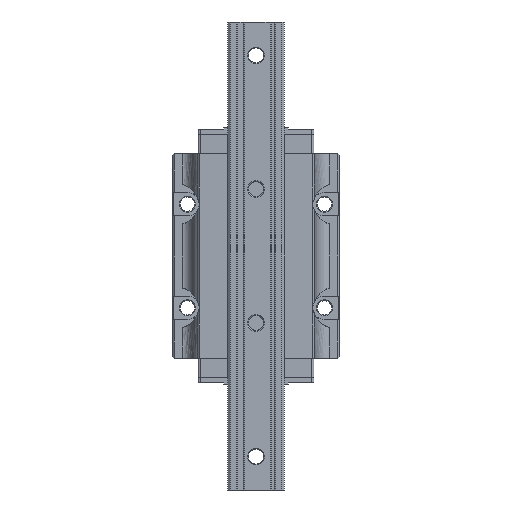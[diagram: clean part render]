
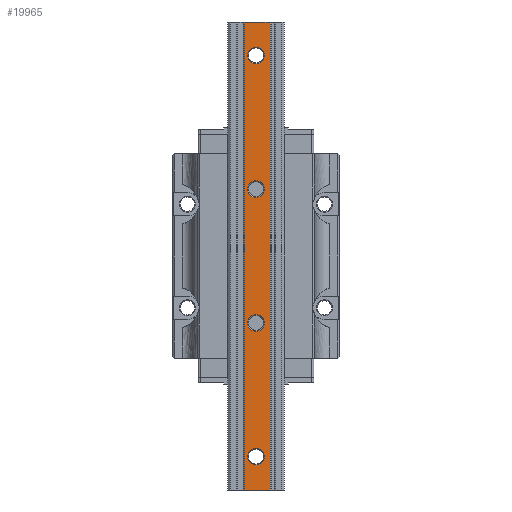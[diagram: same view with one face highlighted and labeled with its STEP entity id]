
A CAD part, front view. The second image highlights one B-rep face of the part: STEP entity #19965.
In plain terms, the highlighted planar face has unit normal (0, -1, 0).
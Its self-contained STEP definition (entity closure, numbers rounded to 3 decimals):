
#373 = VERTEX_POINT ( 'NONE', #3924 ) ;
#1099 = CARTESIAN_POINT ( 'NONE',  ( 0., -26., 40. ) ) ;
#1130 = VERTEX_POINT ( 'NONE', #17689 ) ;
#1188 = CARTESIAN_POINT ( 'NONE',  ( 0., -26., -125. ) ) ;
#1472 = AXIS2_PLACEMENT_3D ( 'NONE', #7399, #14158, #12283 ) ;
#1619 = VERTEX_POINT ( 'NONE', #12989 ) ;
#1746 = ORIENTED_EDGE ( 'NONE', *, *, #17996, .T. ) ;
#2078 = EDGE_CURVE ( 'NONE', #13143, #18710, #11164, .T. ) ;
#2308 = DIRECTION ( 'NONE',  ( 0., 0., 1. ) ) ;
#2327 = EDGE_CURVE ( 'NONE', #373, #5859, #5360, .T. ) ;
#2399 = CARTESIAN_POINT ( 'NONE',  ( 0., -26., 35. ) ) ;
#2979 = VECTOR ( 'NONE', #7361, 1000. ) ;
#3109 = DIRECTION ( 'NONE',  ( 0., 0., 1. ) ) ;
#3287 = DIRECTION ( 'NONE',  ( 0., 1., 0. ) ) ;
#3648 = CIRCLE ( 'NONE', #6819, 5. ) ;
#3858 = EDGE_LOOP ( 'NONE', ( #1746, #11451, #14576, #13323 ) ) ;
#3924 = CARTESIAN_POINT ( 'NONE',  ( 0., -26., -35. ) ) ;
#4320 = ORIENTED_EDGE ( 'NONE', *, *, #15008, .T. ) ;
#4444 = AXIS2_PLACEMENT_3D ( 'NONE', #4749, #18282, #3109 ) ;
#4567 = CARTESIAN_POINT ( 'NONE',  ( -7., -26., 140. ) ) ;
#4749 = CARTESIAN_POINT ( 'NONE',  ( 0., -26., 40. ) ) ;
#4849 = EDGE_CURVE ( 'NONE', #12384, #21370, #7249, .T. ) ;
#4966 = DIRECTION ( 'NONE',  ( 0., 1., 0. ) ) ;
#5360 = CIRCLE ( 'NONE', #1472, 5. ) ;
#5689 = LINE ( 'NONE', #12776, #18446 ) ;
#5744 = DIRECTION ( 'NONE',  ( 0., 0., 1. ) ) ;
#5859 = VERTEX_POINT ( 'NONE', #12724 ) ;
#5875 = AXIS2_PLACEMENT_3D ( 'NONE', #13253, #3287, #16592 ) ;
#5957 = EDGE_LOOP ( 'NONE', ( #8949, #13778 ) ) ;
#6482 = DIRECTION ( 'NONE',  ( 0., 1., 0. ) ) ;
#6639 = CARTESIAN_POINT ( 'NONE',  ( 0., -26., 120. ) ) ;
#6641 = DIRECTION ( 'NONE',  ( 0., 1., 0. ) ) ;
#6735 = EDGE_CURVE ( 'NONE', #12638, #1130, #13324, .T. ) ;
#6786 = CIRCLE ( 'NONE', #11385, 5. ) ;
#6818 = FACE_BOUND ( 'NONE', #5957, .T. ) ;
#6819 = AXIS2_PLACEMENT_3D ( 'NONE', #19147, #14261, #2308 ) ;
#7249 = CIRCLE ( 'NONE', #12196, 5. ) ;
#7361 = DIRECTION ( 'NONE',  ( 1., 0., 0. ) ) ;
#7399 = CARTESIAN_POINT ( 'NONE',  ( 0., -26., -40. ) ) ;
#7518 = DIRECTION ( 'NONE',  ( 0., 1., 0. ) ) ;
#8063 = ORIENTED_EDGE ( 'NONE', *, *, #9699, .T. ) ;
#8715 = EDGE_CURVE ( 'NONE', #20958, #12638, #5689, .T. ) ;
#8860 = EDGE_LOOP ( 'NONE', ( #4320, #17798 ) ) ;
#8949 = ORIENTED_EDGE ( 'NONE', *, *, #14803, .T. ) ;
#9391 = ORIENTED_EDGE ( 'NONE', *, *, #2327, .T. ) ;
#9426 = CARTESIAN_POINT ( 'NONE',  ( -7., -26., 140. ) ) ;
#9699 = EDGE_CURVE ( 'NONE', #21370, #12384, #19083, .T. ) ;
#9932 = FACE_BOUND ( 'NONE', #17157, .T. ) ;
#9985 = DIRECTION ( 'NONE',  ( 0., 0., -1. ) ) ;
#10405 = CARTESIAN_POINT ( 'NONE',  ( 0., -26., -120. ) ) ;
#11053 = VERTEX_POINT ( 'NONE', #1188 ) ;
#11108 = DIRECTION ( 'NONE',  ( 1., 0., 0. ) ) ;
#11164 = CIRCLE ( 'NONE', #4444, 5. ) ;
#11324 = DIRECTION ( 'NONE',  ( 0., 0., -1. ) ) ;
#11385 = AXIS2_PLACEMENT_3D ( 'NONE', #10405, #12071, #18509 ) ;
#11451 = ORIENTED_EDGE ( 'NONE', *, *, #6735, .F. ) ;
#11479 = FACE_OUTER_BOUND ( 'NONE', #3858, .T. ) ;
#12071 = DIRECTION ( 'NONE',  ( 0., 1., 0. ) ) ;
#12124 = LINE ( 'NONE', #15462, #2979 ) ;
#12182 = VECTOR ( 'NONE', #11324, 1000. ) ;
#12196 = AXIS2_PLACEMENT_3D ( 'NONE', #13696, #6482, #20457 ) ;
#12283 = DIRECTION ( 'NONE',  ( 0., 0., 1. ) ) ;
#12320 = ORIENTED_EDGE ( 'NONE', *, *, #12507, .T. ) ;
#12335 = EDGE_CURVE ( 'NONE', #1619, #11053, #6786, .T. ) ;
#12384 = VERTEX_POINT ( 'NONE', #12506 ) ;
#12506 = CARTESIAN_POINT ( 'NONE',  ( 0., -26., 115. ) ) ;
#12507 = EDGE_CURVE ( 'NONE', #5859, #373, #16715, .T. ) ;
#12585 = VECTOR ( 'NONE', #9985, 1000. ) ;
#12638 = VERTEX_POINT ( 'NONE', #16608 ) ;
#12724 = CARTESIAN_POINT ( 'NONE',  ( 0., -26., -45. ) ) ;
#12776 = CARTESIAN_POINT ( 'NONE',  ( -7., -26., 140. ) ) ;
#12989 = CARTESIAN_POINT ( 'NONE',  ( 0., -26., -115. ) ) ;
#13143 = VERTEX_POINT ( 'NONE', #20766 ) ;
#13253 = CARTESIAN_POINT ( 'NONE',  ( -7., -26., 140. ) ) ;
#13323 = ORIENTED_EDGE ( 'NONE', *, *, #16432, .T. ) ;
#13324 = LINE ( 'NONE', #18518, #12585 ) ;
#13368 = FACE_BOUND ( 'NONE', #17371, .T. ) ;
#13696 = CARTESIAN_POINT ( 'NONE',  ( 0., -26., 120. ) ) ;
#13764 = AXIS2_PLACEMENT_3D ( 'NONE', #6639, #4966, #14947 ) ;
#13778 = ORIENTED_EDGE ( 'NONE', *, *, #2078, .T. ) ;
#13790 = CARTESIAN_POINT ( 'NONE',  ( -7., -26., -140. ) ) ;
#13959 = CARTESIAN_POINT ( 'NONE',  ( 0., -26., -40. ) ) ;
#14158 = DIRECTION ( 'NONE',  ( 0., 1., 0. ) ) ;
#14261 = DIRECTION ( 'NONE',  ( 0., 1., 0. ) ) ;
#14576 = ORIENTED_EDGE ( 'NONE', *, *, #8715, .F. ) ;
#14803 = EDGE_CURVE ( 'NONE', #18710, #13143, #19563, .T. ) ;
#14947 = DIRECTION ( 'NONE',  ( 0., 0., 1. ) ) ;
#15008 = EDGE_CURVE ( 'NONE', #11053, #1619, #3648, .T. ) ;
#15462 = CARTESIAN_POINT ( 'NONE',  ( -7., -26., -140. ) ) ;
#16432 = EDGE_CURVE ( 'NONE', #20958, #17927, #18083, .T. ) ;
#16592 = DIRECTION ( 'NONE',  ( 0., 0., 1. ) ) ;
#16608 = CARTESIAN_POINT ( 'NONE',  ( 8.5, -26., 140. ) ) ;
#16715 = CIRCLE ( 'NONE', #20257, 5. ) ;
#17157 = EDGE_LOOP ( 'NONE', ( #19269, #8063 ) ) ;
#17371 = EDGE_LOOP ( 'NONE', ( #12320, #9391 ) ) ;
#17689 = CARTESIAN_POINT ( 'NONE',  ( 8.5, -26., -140. ) ) ;
#17798 = ORIENTED_EDGE ( 'NONE', *, *, #12335, .T. ) ;
#17927 = VERTEX_POINT ( 'NONE', #13790 ) ;
#17996 = EDGE_CURVE ( 'NONE', #17927, #1130, #12124, .T. ) ;
#18048 = DIRECTION ( 'NONE',  ( 0., 0., 1. ) ) ;
#18083 = LINE ( 'NONE', #4567, #12182 ) ;
#18141 = AXIS2_PLACEMENT_3D ( 'NONE', #1099, #6641, #18048 ) ;
#18282 = DIRECTION ( 'NONE',  ( 0., 1., 0. ) ) ;
#18446 = VECTOR ( 'NONE', #11108, 1000. ) ;
#18509 = DIRECTION ( 'NONE',  ( 0., 0., 1. ) ) ;
#18518 = CARTESIAN_POINT ( 'NONE',  ( 8.5, -26., 140. ) ) ;
#18688 = FACE_BOUND ( 'NONE', #8860, .T. ) ;
#18710 = VERTEX_POINT ( 'NONE', #2399 ) ;
#19083 = CIRCLE ( 'NONE', #13764, 5. ) ;
#19147 = CARTESIAN_POINT ( 'NONE',  ( 0., -26., -120. ) ) ;
#19269 = ORIENTED_EDGE ( 'NONE', *, *, #4849, .T. ) ;
#19563 = CIRCLE ( 'NONE', #18141, 5. ) ;
#19965 = ADVANCED_FACE ( 'NONE', ( #13368, #18688, #6818, #9932, #11479 ), #20353, .F. ) ;
#20257 = AXIS2_PLACEMENT_3D ( 'NONE', #13959, #7518, #5744 ) ;
#20353 = PLANE ( 'NONE',  #5875 ) ;
#20457 = DIRECTION ( 'NONE',  ( 0., 0., 1. ) ) ;
#20679 = CARTESIAN_POINT ( 'NONE',  ( 0., -26., 125. ) ) ;
#20766 = CARTESIAN_POINT ( 'NONE',  ( 0., -26., 45. ) ) ;
#20958 = VERTEX_POINT ( 'NONE', #9426 ) ;
#21370 = VERTEX_POINT ( 'NONE', #20679 ) ;
